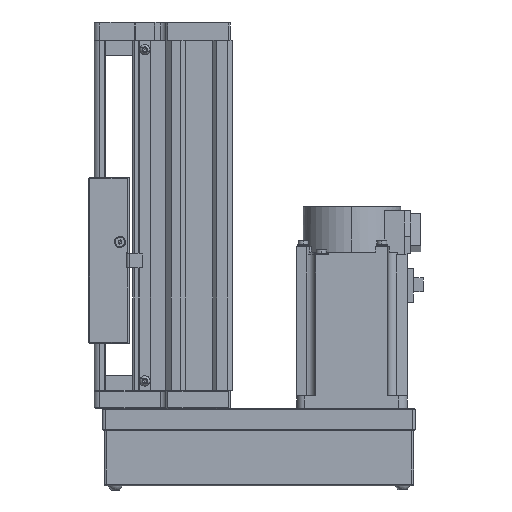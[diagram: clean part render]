
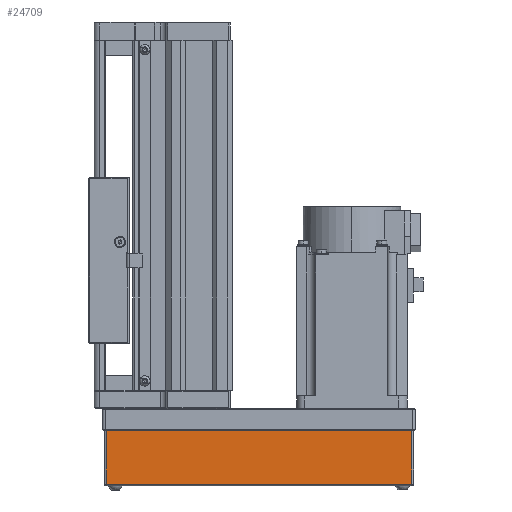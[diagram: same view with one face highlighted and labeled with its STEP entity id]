
A CAD part, left-side view. The second image highlights one B-rep face of the part: STEP entity #24709.
In plain terms, the highlighted planar face has unit normal (-1, 0, 0) as drawn and (0, 1, 0) by its records, which use the part's own axes.
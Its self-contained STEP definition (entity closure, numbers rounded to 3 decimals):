
#411 = EDGE_CURVE ( 'NONE', #17488, #5488, #37872, .T. ) ;
#694 = EDGE_CURVE ( 'NONE', #5488, #16773, #30807, .T. ) ;
#701 = VERTEX_POINT ( 'NONE', #27799 ) ;
#3279 = CARTESIAN_POINT ( 'NONE',  ( 84., 31.5, 29. ) ) ;
#3764 = VECTOR ( 'NONE', #33138, 1000. ) ;
#4739 = VECTOR ( 'NONE', #31514, 1000. ) ;
#5034 = DIRECTION ( 'NONE',  ( 0., -1., 0. ) ) ;
#5488 = VERTEX_POINT ( 'NONE', #23978 ) ;
#5610 = EDGE_CURVE ( 'NONE', #701, #17488, #7012, .T. ) ;
#5899 = ORIENTED_EDGE ( 'NONE', *, *, #694, .T. ) ;
#7012 = LINE ( 'NONE', #19261, #4739 ) ;
#7303 = VECTOR ( 'NONE', #15531, 1000. ) ;
#7400 = ORIENTED_EDGE ( 'NONE', *, *, #31758, .T. ) ;
#8036 = FACE_OUTER_BOUND ( 'NONE', #39046, .T. ) ;
#8602 = LINE ( 'NONE', #20889, #3764 ) ;
#10319 = CARTESIAN_POINT ( 'NONE',  ( -83., 31.5, 30. ) ) ;
#11338 = ORIENTED_EDGE ( 'NONE', *, *, #411, .T. ) ;
#15531 = DIRECTION ( 'NONE',  ( 1., 0., 0. ) ) ;
#16773 = VERTEX_POINT ( 'NONE', #37722 ) ;
#16911 = VECTOR ( 'NONE', #22613, 1000. ) ;
#17290 = DIRECTION ( 'NONE',  ( 0., 0., -1. ) ) ;
#17488 = VERTEX_POINT ( 'NONE', #30005 ) ;
#19261 = CARTESIAN_POINT ( 'NONE',  ( -84., 31.5, 0. ) ) ;
#20319 = PLANE ( 'NONE',  #24180 ) ;
#20889 = CARTESIAN_POINT ( 'NONE',  ( 83., 31.5, 30. ) ) ;
#22613 = DIRECTION ( 'NONE',  ( 0., 0., 1. ) ) ;
#23978 = CARTESIAN_POINT ( 'NONE',  ( -83., 31.5, 29. ) ) ;
#24180 = AXIS2_PLACEMENT_3D ( 'NONE', #32571, #5034, #17290 ) ;
#24709 = ADVANCED_FACE ( 'NONE', ( #8036 ), #20319, .F. ) ;
#27799 = CARTESIAN_POINT ( 'NONE',  ( 83., 31.5, 0. ) ) ;
#30005 = CARTESIAN_POINT ( 'NONE',  ( -83., 31.5, 0. ) ) ;
#30807 = LINE ( 'NONE', #3279, #7303 ) ;
#31514 = DIRECTION ( 'NONE',  ( -1., 0., 0. ) ) ;
#31758 = EDGE_CURVE ( 'NONE', #16773, #701, #8602, .T. ) ;
#32571 = CARTESIAN_POINT ( 'NONE',  ( -84., 31.5, 30. ) ) ;
#33138 = DIRECTION ( 'NONE',  ( 0., 0., -1. ) ) ;
#35644 = ORIENTED_EDGE ( 'NONE', *, *, #5610, .T. ) ;
#37722 = CARTESIAN_POINT ( 'NONE',  ( 83., 31.5, 29. ) ) ;
#37872 = LINE ( 'NONE', #10319, #16911 ) ;
#39046 = EDGE_LOOP ( 'NONE', ( #35644, #11338, #5899, #7400 ) ) ;
